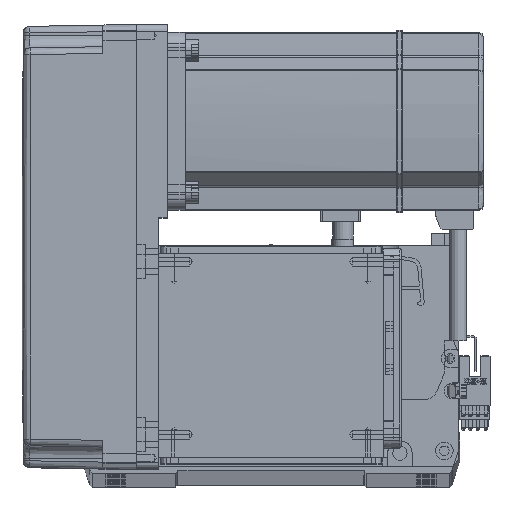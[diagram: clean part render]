
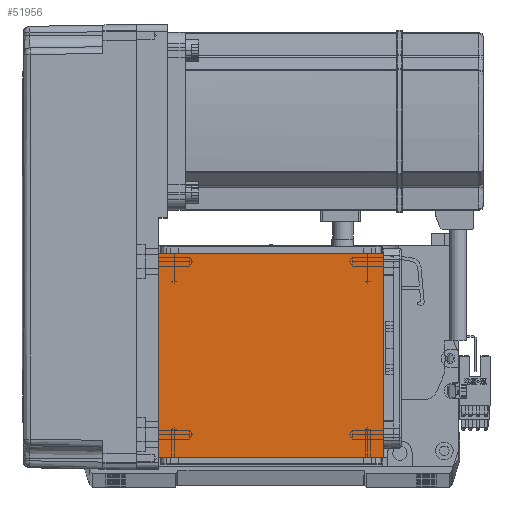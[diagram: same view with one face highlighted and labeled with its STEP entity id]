
A CAD part, top view. The second image highlights one B-rep face of the part: STEP entity #51956.
In plain terms, the highlighted planar face has unit normal (0, 0, 1).
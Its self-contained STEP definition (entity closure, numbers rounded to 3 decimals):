
#714 = ORIENTED_EDGE ( 'NONE', *, *, #38679, .F. ) ;
#2369 = EDGE_CURVE ( 'NONE', #17250, #53381, #6456, .T. ) ;
#6456 = LINE ( 'NONE', #50462, #61485 ) ;
#8142 = EDGE_CURVE ( 'NONE', #17250, #44830, #21490, .T. ) ;
#10463 = ORIENTED_EDGE ( 'NONE', *, *, #56586, .T. ) ;
#13534 = DIRECTION ( 'NONE',  ( 0., 0., 1. ) ) ;
#17250 = VERTEX_POINT ( 'NONE', #17958 ) ;
#17958 = CARTESIAN_POINT ( 'NONE',  ( 50.5, 20., 115. ) ) ;
#18618 = CARTESIAN_POINT ( 'NONE',  ( 0., 0., 115. ) ) ;
#21172 = CARTESIAN_POINT ( 'NONE',  ( 50.5, 122., 115. ) ) ;
#21399 = DIRECTION ( 'NONE',  ( 0., 1., 0. ) ) ;
#21490 = LINE ( 'NONE', #21172, #51537 ) ;
#24512 = VECTOR ( 'NONE', #46198, 1000. ) ;
#26174 = LINE ( 'NONE', #66953, #24512 ) ;
#27650 = VERTEX_POINT ( 'NONE', #64663 ) ;
#30661 = FACE_OUTER_BOUND ( 'NONE', #43203, .T. ) ;
#32086 = VECTOR ( 'NONE', #66629, 1000. ) ;
#33371 = ORIENTED_EDGE ( 'NONE', *, *, #8142, .T. ) ;
#35172 = DIRECTION ( 'NONE',  ( 1., 0., 0. ) ) ;
#38679 = EDGE_CURVE ( 'NONE', #27650, #44830, #49577, .T. ) ;
#40882 = CARTESIAN_POINT ( 'NONE',  ( -50.5, 20., 115. ) ) ;
#42432 = ORIENTED_EDGE ( 'NONE', *, *, #2369, .F. ) ;
#43203 = EDGE_LOOP ( 'NONE', ( #714, #10463, #42432, #33371 ) ) ;
#44830 = VERTEX_POINT ( 'NONE', #63832 ) ;
#46198 = DIRECTION ( 'NONE',  ( 0., -1., 0. ) ) ;
#46382 = AXIS2_PLACEMENT_3D ( 'NONE', #18618, #13534, #35172 ) ;
#49577 = LINE ( 'NONE', #61273, #32086 ) ;
#49782 = DIRECTION ( 'NONE',  ( -1., 0., 0. ) ) ;
#50462 = CARTESIAN_POINT ( 'NONE',  ( -70.004, 20., 115. ) ) ;
#50982 = PLANE ( 'NONE',  #46382 ) ;
#51537 = VECTOR ( 'NONE', #21399, 1000. ) ;
#51956 = ADVANCED_FACE ( 'NONE', ( #30661 ), #50982, .T. ) ;
#53381 = VERTEX_POINT ( 'NONE', #40882 ) ;
#56586 = EDGE_CURVE ( 'NONE', #27650, #53381, #26174, .T. ) ;
#61273 = CARTESIAN_POINT ( 'NONE',  ( -70.004, 111.5, 115. ) ) ;
#61485 = VECTOR ( 'NONE', #49782, 1000. ) ;
#63832 = CARTESIAN_POINT ( 'NONE',  ( 50.5, 111.5, 115. ) ) ;
#64663 = CARTESIAN_POINT ( 'NONE',  ( -50.5, 111.5, 115. ) ) ;
#66629 = DIRECTION ( 'NONE',  ( 1., 0., 0. ) ) ;
#66953 = CARTESIAN_POINT ( 'NONE',  ( -50.5, 122., 115. ) ) ;
